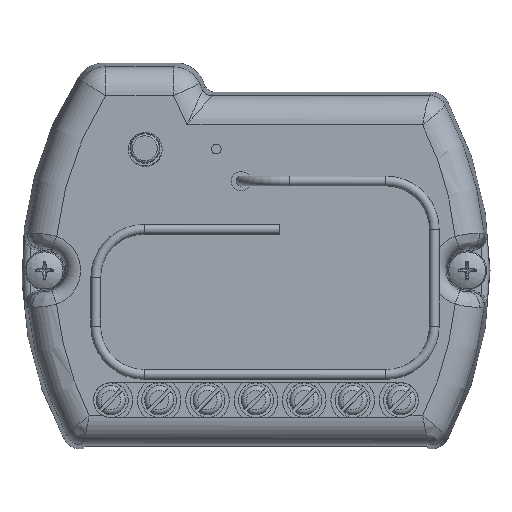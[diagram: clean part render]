
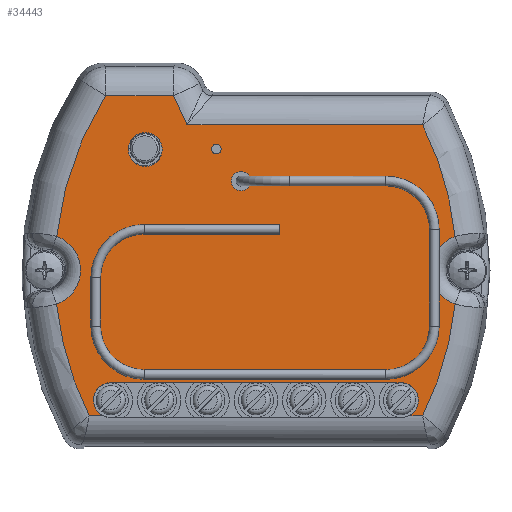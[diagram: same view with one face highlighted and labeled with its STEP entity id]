
A CAD part, top view. The second image highlights one B-rep face of the part: STEP entity #34443.
In plain terms, the highlighted planar face has unit normal (0, 0, 1).
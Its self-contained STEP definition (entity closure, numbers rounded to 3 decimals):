
#1586=FACE_BOUND('',#5234,.T.);
#1587=FACE_BOUND('',#5235,.T.);
#1588=FACE_BOUND('',#5236,.T.);
#1897=PLANE('',#36737);
#3228=FACE_OUTER_BOUND('',#5233,.T.);
#5233=EDGE_LOOP('',(#24921,#24922,#24923,#24924,#24925,#24926,#24927,#24928,
#24929,#24930,#24931,#24932,#24933,#24934));
#5234=EDGE_LOOP('',(#24935));
#5235=EDGE_LOOP('',(#24936));
#5236=EDGE_LOOP('',(#24937));
#7475=LINE('',#50955,#11092);
#7477=LINE('',#50993,#11094);
#7480=LINE('',#51005,#11097);
#7483=LINE('',#51073,#11100);
#7484=LINE('',#51077,#11101);
#7485=LINE('',#51081,#11102);
#11092=VECTOR('',#40053,10.);
#11094=VECTOR('',#40059,10.);
#11097=VECTOR('',#40074,10.);
#11100=VECTOR('',#40103,10.);
#11101=VECTOR('',#40106,10.);
#11102=VECTOR('',#40109,10.);
#14403=CIRCLE('',#36648,1.);
#14407=CIRCLE('',#36654,0.5);
#14442=CIRCLE('',#36732,33.582);
#14445=CIRCLE('',#36738,3.724);
#14446=CIRCLE('',#36739,33.582);
#14447=CIRCLE('',#36740,1.8);
#14448=CIRCLE('',#36741,1.8);
#14449=CIRCLE('',#36742,33.582);
#14450=CIRCLE('',#36743,3.724);
#14451=CIRCLE('',#36744,33.582);
#14452=CIRCLE('',#36745,1.75);
#15467=VERTEX_POINT('',#49104);
#15470=VERTEX_POINT('',#49114);
#15567=VERTEX_POINT('',#50943);
#15569=VERTEX_POINT('',#50954);
#15571=VERTEX_POINT('',#50991);
#15574=VERTEX_POINT('',#51003);
#15578=VERTEX_POINT('',#51043);
#15583=VERTEX_POINT('',#51068);
#15584=VERTEX_POINT('',#51070);
#15585=VERTEX_POINT('',#51072);
#15586=VERTEX_POINT('',#51074);
#15587=VERTEX_POINT('',#51076);
#15588=VERTEX_POINT('',#51078);
#15589=VERTEX_POINT('',#51080);
#15590=VERTEX_POINT('',#51082);
#15591=VERTEX_POINT('',#51084);
#15592=VERTEX_POINT('',#51087);
#19022=EDGE_CURVE('',#15467,#15467,#14403,.T.);
#19027=EDGE_CURVE('',#15470,#15470,#14407,.T.);
#19151=EDGE_CURVE('',#15567,#15569,#7475,.T.);
#19155=EDGE_CURVE('',#15571,#15567,#7477,.T.);
#19161=EDGE_CURVE('',#15574,#15571,#7480,.T.);
#19170=EDGE_CURVE('',#15578,#15574,#14442,.T.);
#19176=EDGE_CURVE('',#15583,#15578,#14445,.T.);
#19177=EDGE_CURVE('',#15584,#15583,#14446,.T.);
#19178=EDGE_CURVE('',#15585,#15584,#7483,.T.);
#19179=EDGE_CURVE('',#15585,#15586,#14447,.T.);
#19180=EDGE_CURVE('',#15586,#15587,#7484,.T.);
#19181=EDGE_CURVE('',#15587,#15588,#14448,.T.);
#19182=EDGE_CURVE('',#15589,#15588,#7485,.T.);
#19183=EDGE_CURVE('',#15590,#15589,#14449,.T.);
#19184=EDGE_CURVE('',#15591,#15590,#14450,.T.);
#19185=EDGE_CURVE('',#15569,#15591,#14451,.T.);
#19186=EDGE_CURVE('',#15592,#15592,#14452,.T.);
#24921=ORIENTED_EDGE('',*,*,#19161,.F.);
#24922=ORIENTED_EDGE('',*,*,#19170,.F.);
#24923=ORIENTED_EDGE('',*,*,#19176,.F.);
#24924=ORIENTED_EDGE('',*,*,#19177,.F.);
#24925=ORIENTED_EDGE('',*,*,#19178,.F.);
#24926=ORIENTED_EDGE('',*,*,#19179,.T.);
#24927=ORIENTED_EDGE('',*,*,#19180,.T.);
#24928=ORIENTED_EDGE('',*,*,#19181,.T.);
#24929=ORIENTED_EDGE('',*,*,#19182,.F.);
#24930=ORIENTED_EDGE('',*,*,#19183,.F.);
#24931=ORIENTED_EDGE('',*,*,#19184,.F.);
#24932=ORIENTED_EDGE('',*,*,#19185,.F.);
#24933=ORIENTED_EDGE('',*,*,#19151,.F.);
#24934=ORIENTED_EDGE('',*,*,#19155,.F.);
#24935=ORIENTED_EDGE('',*,*,#19022,.T.);
#24936=ORIENTED_EDGE('',*,*,#19027,.T.);
#24937=ORIENTED_EDGE('',*,*,#19186,.T.);
#34443=ADVANCED_FACE('',(#3228,#1586,#1587,#1588),#1897,.T.);
#36648=AXIS2_PLACEMENT_3D('',#49105,#39850,#39851);
#36654=AXIS2_PLACEMENT_3D('',#49115,#39863,#39864);
#36732=AXIS2_PLACEMENT_3D('',#51049,#40086,#40087);
#36737=AXIS2_PLACEMENT_3D('',#51067,#40097,#40098);
#36738=AXIS2_PLACEMENT_3D('',#51069,#40099,#40100);
#36739=AXIS2_PLACEMENT_3D('',#51071,#40101,#40102);
#36740=AXIS2_PLACEMENT_3D('',#51075,#40104,#40105);
#36741=AXIS2_PLACEMENT_3D('',#51079,#40107,#40108);
#36742=AXIS2_PLACEMENT_3D('',#51083,#40110,#40111);
#36743=AXIS2_PLACEMENT_3D('',#51085,#40112,#40113);
#36744=AXIS2_PLACEMENT_3D('',#51086,#40114,#40115);
#36745=AXIS2_PLACEMENT_3D('',#51088,#40116,#40117);
#39850=DIRECTION('center_axis',(0.,0.,-1.));
#39851=DIRECTION('ref_axis',(-1.,0.,0.));
#39863=DIRECTION('center_axis',(0.,0.,-1.));
#39864=DIRECTION('ref_axis',(-1.,0.,0.));
#40053=DIRECTION('',(1.,0.,0.));
#40059=DIRECTION('',(0.423,-0.906,0.));
#40074=DIRECTION('',(1.,0.,0.));
#40086=DIRECTION('center_axis',(0.,0.,-1.));
#40087=DIRECTION('ref_axis',(-0.962,0.272,0.));
#40097=DIRECTION('center_axis',(0.,0.,1.));
#40098=DIRECTION('ref_axis',(1.,0.,0.));
#40099=DIRECTION('center_axis',(0.,0.,1.));
#40100=DIRECTION('ref_axis',(1.,0.,0.));
#40101=DIRECTION('center_axis',(0.,0.,-1.));
#40102=DIRECTION('ref_axis',(-0.962,-0.272,0.));
#40103=DIRECTION('',(-1.,0.,0.));
#40104=DIRECTION('center_axis',(0.,0.,-1.));
#40105=DIRECTION('ref_axis',(-1.,0.,0.));
#40106=DIRECTION('',(1.,0.,0.));
#40107=DIRECTION('center_axis',(0.,0.,-1.));
#40108=DIRECTION('ref_axis',(-1.,0.,0.));
#40109=DIRECTION('',(-1.,0.,0.));
#40110=DIRECTION('center_axis',(0.,0.,-1.));
#40111=DIRECTION('ref_axis',(0.962,-0.272,0.));
#40112=DIRECTION('center_axis',(0.,0.,1.));
#40113=DIRECTION('ref_axis',(-1.,0.,0.));
#40114=DIRECTION('center_axis',(0.,0.,-1.));
#40115=DIRECTION('ref_axis',(0.962,0.272,0.));
#40116=DIRECTION('center_axis',(0.,0.,-1.));
#40117=DIRECTION('ref_axis',(1.,0.,0.));
#49104=CARTESIAN_POINT('',(-0.554,9.221,12.5));
#49105=CARTESIAN_POINT('Origin',(-1.554,9.221,12.5));
#49114=CARTESIAN_POINT('',(-3.585,12.527,12.5));
#49115=CARTESIAN_POINT('Origin',(-4.085,12.527,12.5));
#50943=CARTESIAN_POINT('',(-7.126,15.032,12.5));
#50954=CARTESIAN_POINT('',(17.23,15.032,12.5));
#50955=CARTESIAN_POINT('',(-9.047,15.032,12.5));
#50991=CARTESIAN_POINT('',(-8.525,18.032,12.5));
#50993=CARTESIAN_POINT('',(-9.516,20.156,12.5));
#51003=CARTESIAN_POINT('',(-15.53,18.032,12.5));
#51005=CARTESIAN_POINT('',(-14.761,18.032,12.5));
#51043=CARTESIAN_POINT('',(-20.599,3.508,12.5));
#51049=CARTESIAN_POINT('Origin',(12.8,0.,12.5));
#51067=CARTESIAN_POINT('Origin',(-12.174,19.1,12.5));
#51068=CARTESIAN_POINT('',(-20.599,-3.508,12.5));
#51069=CARTESIAN_POINT('Origin',(-21.85,0.,
12.5));
#51070=CARTESIAN_POINT('',(-17.23,-15.032,12.5));
#51071=CARTESIAN_POINT('Origin',(12.8,0.,12.5));
#51072=CARTESIAN_POINT('',(-15.807,-15.032,12.5));
#51073=CARTESIAN_POINT('',(9.047,-15.032,12.5));
#51074=CARTESIAN_POINT('',(-15.,-11.623,12.5));
#51075=CARTESIAN_POINT('Origin',(-15.,-13.423,12.5));
#51076=CARTESIAN_POINT('',(15.,-11.623,12.5));
#51077=CARTESIAN_POINT('',(7.5,-11.623,12.5));
#51078=CARTESIAN_POINT('',(15.807,-15.032,12.5));
#51079=CARTESIAN_POINT('Origin',(15.,-13.423,12.5));
#51080=CARTESIAN_POINT('',(17.23,-15.032,12.5));
#51081=CARTESIAN_POINT('',(9.047,-15.032,12.5));
#51082=CARTESIAN_POINT('',(20.599,-3.508,12.5));
#51083=CARTESIAN_POINT('Origin',(-12.8,0.,12.5));
#51084=CARTESIAN_POINT('',(20.599,3.508,12.5));
#51085=CARTESIAN_POINT('Origin',(21.85,0.,12.5));
#51086=CARTESIAN_POINT('Origin',(-12.8,0.,12.5));
#51087=CARTESIAN_POINT('',(-13.184,12.491,12.5));
#51088=CARTESIAN_POINT('Origin',(-11.434,12.491,12.5));
